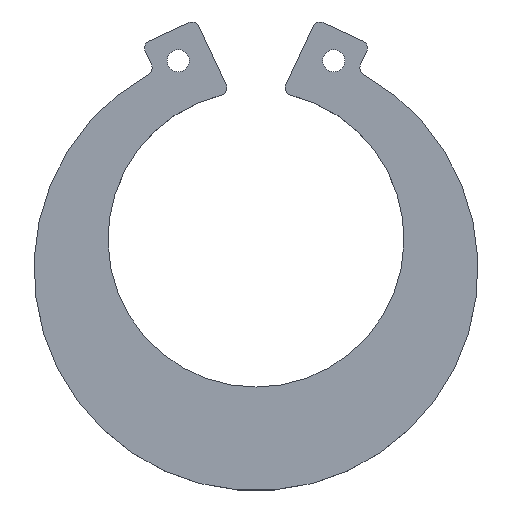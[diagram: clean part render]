
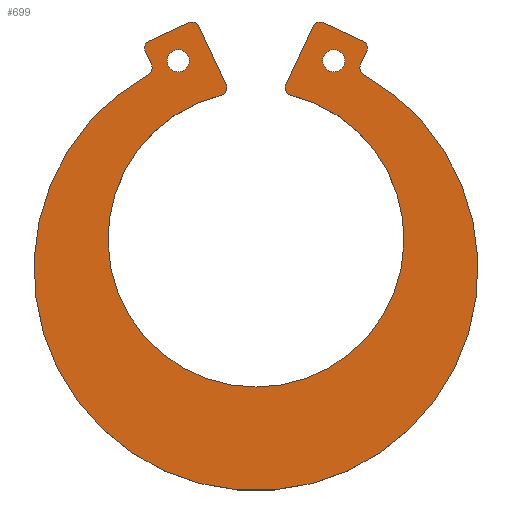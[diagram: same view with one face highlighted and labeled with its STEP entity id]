
A CAD part, top view. The second image highlights one B-rep face of the part: STEP entity #699.
In plain terms, the highlighted planar face has unit normal (0, 0, 1).
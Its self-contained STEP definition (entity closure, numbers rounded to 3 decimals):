
#73=CARTESIAN_POINT('',(-14.977,25.374,8.0));
#74=VERTEX_POINT('',#73);
#75=CARTESIAN_POINT('',(-14.493,26.702,8.0));
#76=VERTEX_POINT('',#75);
#77=CARTESIAN_POINT('',(-14.07,25.796,8.0));
#78=DIRECTION('',(0.0,0.0,-1.0));
#79=DIRECTION('',(-0.94,0.342,0.0));
#80=AXIS2_PLACEMENT_3D('',#77,#78,#79);
#81=CIRCLE('',#80,1.0);
#82=EDGE_CURVE('',#74,#76,#81,.T.);
#124=CARTESIAN_POINT('',(-14.12,23.537,8.0));
#125=VERTEX_POINT('',#124);
#132=CARTESIAN_POINT('',(-14.12,23.537,8.0));
#133=DIRECTION('',(-0.423,0.906,0.0));
#134=VECTOR('',#133,2.026);
#135=LINE('',#132,#134);
#136=EDGE_CURVE('',#125,#74,#135,.T.);
#298=CARTESIAN_POINT('',(-14.542,22.24,8.0));
#299=VERTEX_POINT('',#298);
#306=CARTESIAN_POINT('',(-15.027,23.115,8.0));
#307=DIRECTION('',(0.0,0.0,1.));
#308=DIRECTION('',(0.951,-0.309,0.0));
#309=AXIS2_PLACEMENT_3D('',#306,#307,#308);
#310=CIRCLE('',#309,1.);
#311=EDGE_CURVE('',#299,#125,#310,.T.);
#324=CARTESIAN_POINT('',(14.542,22.24,8.0));
#325=VERTEX_POINT('',#324);
#332=CARTESIAN_POINT('',(0.,-4.,8.0));
#333=DIRECTION('',(0.0,0.0,-1.));
#334=DIRECTION('',(0.457,-0.889,0.0));
#335=AXIS2_PLACEMENT_3D('',#332,#333,#334);
#336=CIRCLE('',#335,30.);
#337=EDGE_CURVE('',#325,#299,#336,.T.);
#348=CARTESIAN_POINT('',(14.12,23.537,8.0));
#349=VERTEX_POINT('',#348);
#356=CARTESIAN_POINT('',(15.027,23.115,8.0));
#357=DIRECTION('',(0.0,0.0,1.0));
#358=DIRECTION('',(-0.951,-0.309,0.0));
#359=AXIS2_PLACEMENT_3D('',#356,#357,#358);
#360=CIRCLE('',#359,1.);
#361=EDGE_CURVE('',#349,#325,#360,.T.);
#374=CARTESIAN_POINT('',(14.977,25.374,8.0));
#375=VERTEX_POINT('',#374);
#382=CARTESIAN_POINT('',(14.977,25.374,8.0));
#383=DIRECTION('',(-0.423,-0.906,0.0));
#384=VECTOR('',#383,2.026);
#385=LINE('',#382,#384);
#386=EDGE_CURVE('',#375,#349,#385,.T.);
#396=CARTESIAN_POINT('',(14.493,26.702,8.0));
#397=VERTEX_POINT('',#396);
#398=CARTESIAN_POINT('',(14.07,25.796,8.0));
#399=DIRECTION('',(0.0,0.0,-1.0));
#400=DIRECTION('',(0.94,0.342,0.0));
#401=AXIS2_PLACEMENT_3D('',#398,#399,#400);
#402=CIRCLE('',#401,1.0);
#403=EDGE_CURVE('',#397,#375,#402,.T.);
#423=CARTESIAN_POINT('',(9.055,29.238,8.0));
#424=VERTEX_POINT('',#423);
#431=CARTESIAN_POINT('',(9.055,29.238,8.0));
#432=DIRECTION('',(0.906,-0.423,0.0));
#433=VECTOR('',#432,6.);
#434=LINE('',#431,#433);
#435=EDGE_CURVE('',#424,#397,#434,.T.);
#445=CARTESIAN_POINT('',(4.704,19.439,8.0));
#446=VERTEX_POINT('',#445);
#447=CARTESIAN_POINT('',(4.033,20.834,8.0));
#448=VERTEX_POINT('',#447);
#449=CARTESIAN_POINT('',(4.939,20.411,8.0));
#450=DIRECTION('',(0.0,0.0,-1.0));
#451=DIRECTION('',(-0.901,-0.434,0.0));
#452=AXIS2_PLACEMENT_3D('',#449,#450,#451);
#453=CIRCLE('',#452,1.0);
#454=EDGE_CURVE('',#446,#448,#453,.T.);
#479=CARTESIAN_POINT('',(-4.704,19.439,8.0));
#480=VERTEX_POINT('',#479);
#487=CARTESIAN_POINT('',(0.0,0.,8.0));
#488=DIRECTION('',(0.0,0.0,1.0));
#489=DIRECTION('',(-0.175,0.985,0.0));
#490=AXIS2_PLACEMENT_3D('',#487,#488,#489);
#491=CIRCLE('',#490,20.);
#492=EDGE_CURVE('',#480,#446,#491,.T.);
#502=CARTESIAN_POINT('',(-9.055,29.238,8.0));
#503=VERTEX_POINT('',#502);
#504=CARTESIAN_POINT('',(-7.726,28.754,8.0));
#505=VERTEX_POINT('',#504);
#506=CARTESIAN_POINT('',(-8.632,28.332,8.0));
#507=DIRECTION('',(0.0,0.0,-1.));
#508=DIRECTION('',(0.342,0.94,0.0));
#509=AXIS2_PLACEMENT_3D('',#506,#507,#508);
#510=CIRCLE('',#509,1.0);
#511=EDGE_CURVE('',#503,#505,#510,.T.);
#535=CARTESIAN_POINT('',(-4.033,20.834,8.0));
#536=VERTEX_POINT('',#535);
#537=CARTESIAN_POINT('',(-7.726,28.754,8.0));
#538=DIRECTION('',(0.423,-0.906,0.0));
#539=VECTOR('',#538,8.74);
#540=LINE('',#537,#539);
#541=EDGE_CURVE('',#505,#536,#540,.T.);
#558=CARTESIAN_POINT('',(-4.939,20.411,8.0));
#559=DIRECTION('',(0.0,0.0,-1.0));
#560=DIRECTION('',(0.901,-0.434,0.0));
#561=AXIS2_PLACEMENT_3D('',#558,#559,#560);
#562=CIRCLE('',#561,1.0);
#563=EDGE_CURVE('',#536,#480,#562,.T.);
#576=CARTESIAN_POINT('',(7.726,28.754,8.0));
#577=VERTEX_POINT('',#576);
#578=CARTESIAN_POINT('',(8.632,28.332,8.0));
#579=DIRECTION('',(0.0,0.0,-1.));
#580=DIRECTION('',(-0.342,0.94,0.0));
#581=AXIS2_PLACEMENT_3D('',#578,#579,#580);
#582=CIRCLE('',#581,1.0);
#583=EDGE_CURVE('',#577,#424,#582,.T.);
#601=CARTESIAN_POINT('',(12.,24.102,8.0));
#602=VERTEX_POINT('',#601);
#603=CARTESIAN_POINT('',(10.5,24.102,8.0));
#604=DIRECTION('',(0.0,0.0,-1.0));
#605=DIRECTION('',(-1.0,0.0,0.0));
#606=AXIS2_PLACEMENT_3D('',#603,#604,#605);
#607=CIRCLE('',#606,1.5);
#608=EDGE_CURVE('',#602,#602,#607,.T.);
#621=CARTESIAN_POINT('',(-9.0,24.102,8.0));
#622=VERTEX_POINT('',#621);
#623=CARTESIAN_POINT('',(-10.5,24.102,8.0));
#624=DIRECTION('',(0.0,0.0,-1.0));
#625=DIRECTION('',(-1.0,0.0,0.0));
#626=AXIS2_PLACEMENT_3D('',#623,#624,#625);
#627=CIRCLE('',#626,1.5);
#628=EDGE_CURVE('',#622,#622,#627,.T.);
#642=CARTESIAN_POINT('',(4.033,20.834,8.0));
#643=DIRECTION('',(0.423,0.906,0.0));
#644=VECTOR('',#643,8.74);
#645=LINE('',#642,#644);
#646=EDGE_CURVE('',#448,#577,#645,.T.);
#659=CARTESIAN_POINT('',(-14.493,26.702,8.0));
#660=DIRECTION('',(0.906,0.423,0.0));
#661=VECTOR('',#660,6.);
#662=LINE('',#659,#661);
#663=EDGE_CURVE('',#76,#503,#662,.T.);
#670=CARTESIAN_POINT('',(0.,0.897,8.0));
#671=DIRECTION('',(0.0,0.0,1.0));
#672=DIRECTION('',(1.0,0.0,0.0));
#673=AXIS2_PLACEMENT_3D('',#670,#671,#672);
#674=PLANE('',#673);
#675=ORIENTED_EDGE('',*,*,#82,.F.);
#676=ORIENTED_EDGE('',*,*,#136,.F.);
#677=ORIENTED_EDGE('',*,*,#311,.F.);
#678=ORIENTED_EDGE('',*,*,#337,.F.);
#679=ORIENTED_EDGE('',*,*,#361,.F.);
#680=ORIENTED_EDGE('',*,*,#386,.F.);
#681=ORIENTED_EDGE('',*,*,#403,.F.);
#682=ORIENTED_EDGE('',*,*,#435,.F.);
#683=ORIENTED_EDGE('',*,*,#583,.F.);
#684=ORIENTED_EDGE('',*,*,#646,.F.);
#685=ORIENTED_EDGE('',*,*,#454,.F.);
#686=ORIENTED_EDGE('',*,*,#492,.F.);
#687=ORIENTED_EDGE('',*,*,#563,.F.);
#688=ORIENTED_EDGE('',*,*,#541,.F.);
#689=ORIENTED_EDGE('',*,*,#511,.F.);
#690=ORIENTED_EDGE('',*,*,#663,.F.);
#691=EDGE_LOOP('',(#675,#676,#677,#678,#679,#680,#681,#682,#683,#684,#685,#686,#687,#688,#689,#690));
#692=FACE_OUTER_BOUND('',#691,.T.);
#693=ORIENTED_EDGE('',*,*,#608,.T.);
#694=EDGE_LOOP('',(#693));
#695=FACE_BOUND('',#694,.T.);
#696=ORIENTED_EDGE('',*,*,#628,.T.);
#697=EDGE_LOOP('',(#696));
#698=FACE_BOUND('',#697,.T.);
#699=ADVANCED_FACE('',(#692,#695,#698),#674,.T.);
